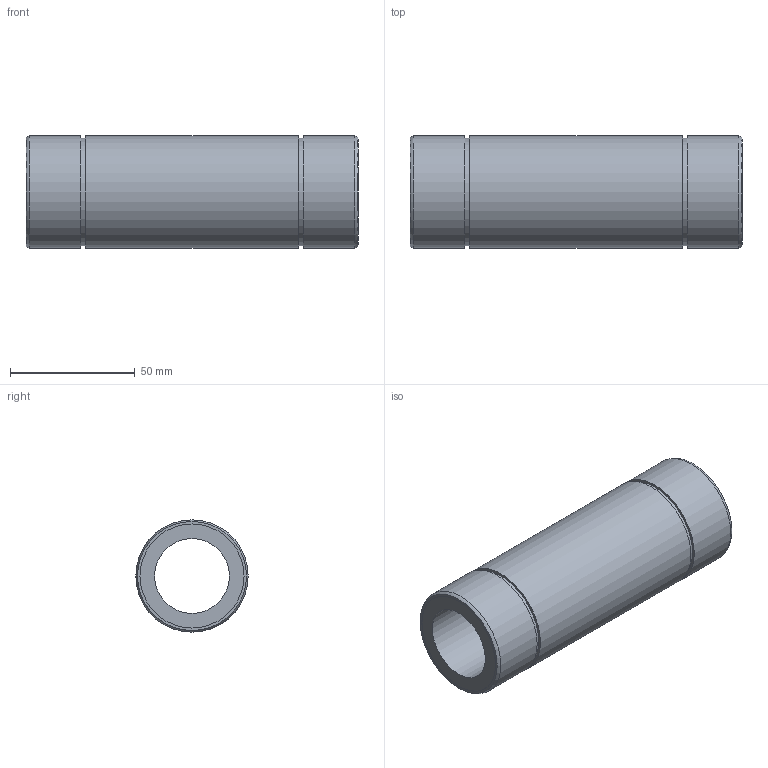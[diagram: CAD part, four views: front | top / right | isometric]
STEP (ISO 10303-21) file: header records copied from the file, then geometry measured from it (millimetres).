
FILE_DESCRIPTION((''),'2;1');
FILE_NAME('D:\製品 (図面)\カタログ用3D\メンテナンスフリー関連\STEP形式\LD-MF\LD30MF.stp','2010-06-01T15:37:02',('Tsuchiya'),(''),'Autodesk Inventor 10','Autodesk Inventor 10','');
FILE_SCHEMA(('AUTOMOTIVE_DESIGN { 1 0 10303 214 1 1 1 1 }'));
Length unit declared in the file: millimetre
Products named in the file (1): LD30MF
Bounding box: 133 x 45 x 45 mm (x, y, z)
Volume: 116760.8 mm3; surface area: 33494.2 mm2
Topology: 1 solids, 1 shells, 18 faces, 28 edges, 18 vertices
Faces by surface type: plane 8, cylinder 8, torus 2
Full cylindrical faces by diameter (mm): 30 x1, 41.7 x2, 43 x2, 45 x3
Entity records: 391 total; most frequent: DIRECTION 74, CARTESIAN_POINT 55, AXIS2_PLACEMENT_3D 37, ORIENTED_EDGE 36, EDGE_LOOP 36, VERTEX_POINT 18, CIRCLE 18, EDGE_CURVE 18
